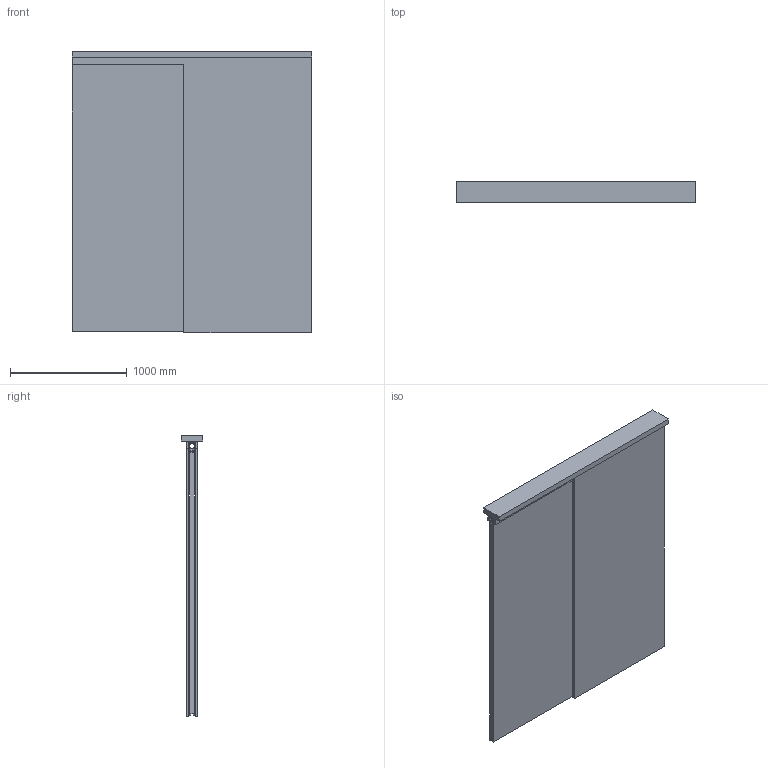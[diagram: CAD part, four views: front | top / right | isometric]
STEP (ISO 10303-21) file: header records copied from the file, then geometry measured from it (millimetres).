
FILE_DESCRIPTION(('STEP AP242'),'1');
FILE_NAME('OPO_65.083.02_volu_schn_3d.stp','2026-02-23T17:27:23',(' '),(' '),'Spatial InterOp 3D',' ',' ');
FILE_SCHEMA(('AP242_MANAGED_MODEL_BASED_3D_ENGINEERING_MIM_LF {1 0 10303 442 1 1 4}'));
Length unit declared in the file: millimetre
Products named in the file (1): 1
Bounding box: 2050 x 188 x 2410 mm (x, y, z)
Volume: 211678001.2 mm3; surface area: 18014096.9 mm2
Topology: 7 solids, 7 shells, 350 faces, 3931 edges, 6533 vertices
Faces by surface type: plane 286, cylinder 64
Entity records: 50014 total; most frequent: DIRECTION 5168, CARTESIAN_POINT 4999, LINE 3386, VECTOR 3386, STYLED_ITEM 3335, PRESENTATION_STYLE_ASSIGNMENT 3335, COLOUR_RGB 3335, COMPOSITE_CURVE 2985
